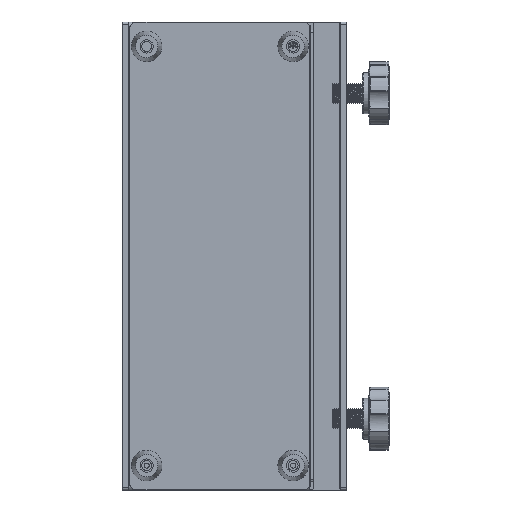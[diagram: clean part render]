
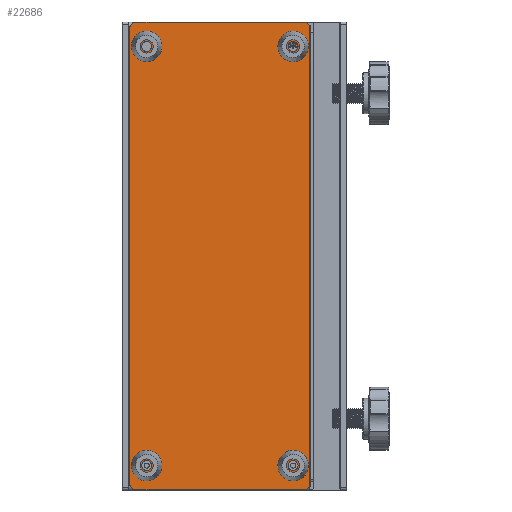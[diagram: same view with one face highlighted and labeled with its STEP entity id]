
A CAD part, front view. The second image highlights one B-rep face of the part: STEP entity #22686.
In plain terms, the highlighted planar face has unit normal (0, -1, 0).
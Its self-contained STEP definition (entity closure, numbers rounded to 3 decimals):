
#1870 = CARTESIAN_POINT ( 'NONE',  ( 83.75, -49.25, -103. ) ) ;
#2075 = DIRECTION ( 'NONE',  ( -1., 0., 0. ) ) ;
#2076 = DIRECTION ( 'NONE',  ( -1., 0., 0. ) ) ;
#3842 = FACE_BOUND ( 'NONE', #25875, .T. ) ;
#4093 = CIRCLE ( 'NONE', #26175, 2.4 ) ;
#5411 = EDGE_CURVE ( 'NONE', #46931, #46931, #15326, .T. ) ;
#5833 = DIRECTION ( 'NONE',  ( 0., -1., 0. ) ) ;
#5959 = VERTEX_POINT ( 'NONE', #36346 ) ;
#7318 = DIRECTION ( 'NONE',  ( 0., -1., 0. ) ) ;
#7723 = FACE_OUTER_BOUND ( 'NONE', #28064, .T. ) ;
#8888 = DIRECTION ( 'NONE',  ( 1., 0., 0. ) ) ;
#10193 = CARTESIAN_POINT ( 'NONE',  ( 89., -49.25, -115. ) ) ;
#10977 = ORIENTED_EDGE ( 'NONE', *, *, #5411, .T. ) ;
#12600 = VERTEX_POINT ( 'NONE', #27683 ) ;
#13413 = AXIS2_PLACEMENT_3D ( 'NONE', #39127, #26100, #23043 ) ;
#14123 = CARTESIAN_POINT ( 'NONE',  ( 11.75, -49.25, 103. ) ) ;
#14220 = VERTEX_POINT ( 'NONE', #22229 ) ;
#15314 = VECTOR ( 'NONE', #2075, 1000. ) ;
#15326 = CIRCLE ( 'NONE', #48886, 2.4 ) ;
#15790 = VERTEX_POINT ( 'NONE', #47991 ) ;
#16821 = CIRCLE ( 'NONE', #30938, 2.4 ) ;
#16922 = CARTESIAN_POINT ( 'NONE',  ( 6.5, -49.25, 112. ) ) ;
#17199 = VERTEX_POINT ( 'NONE', #34042 ) ;
#18568 = CARTESIAN_POINT ( 'NONE',  ( 3.5, -49.25, -112. ) ) ;
#19272 = AXIS2_PLACEMENT_3D ( 'NONE', #1870, #35631, #48889 ) ;
#20884 = VECTOR ( 'NONE', #41479, 1000. ) ;
#22229 = CARTESIAN_POINT ( 'NONE',  ( 81.35, -49.25, -103. ) ) ;
#22240 = CIRCLE ( 'NONE', #29294, 3. ) ;
#22662 = VECTOR ( 'NONE', #42760, 1000. ) ;
#22686 = ADVANCED_FACE ( 'NONE', ( #24883, #3842, #50047, #45634, #7723 ), #37612, .T. ) ;
#22836 = DIRECTION ( 'NONE',  ( 0., 1., 0. ) ) ;
#23043 = DIRECTION ( 'NONE',  ( 1., 0., 0. ) ) ;
#23099 = CARTESIAN_POINT ( 'NONE',  ( 3.5, -49.25, 112. ) ) ;
#23285 = AXIS2_PLACEMENT_3D ( 'NONE', #42550, #41743, #25406 ) ;
#24183 = CIRCLE ( 'NONE', #23285, 3. ) ;
#24510 = VERTEX_POINT ( 'NONE', #23099 ) ;
#24605 = CARTESIAN_POINT ( 'NONE',  ( 47.75, -49.25, 0. ) ) ;
#24625 = EDGE_LOOP ( 'NONE', ( #39671 ) ) ;
#24883 = FACE_BOUND ( 'NONE', #41868, .T. ) ;
#24894 = CARTESIAN_POINT ( 'NONE',  ( 6.5, -49.25, 115. ) ) ;
#25406 = DIRECTION ( 'NONE',  ( 1., 0., 0. ) ) ;
#25729 = ORIENTED_EDGE ( 'NONE', *, *, #53222, .T. ) ;
#25875 = EDGE_LOOP ( 'NONE', ( #10977 ) ) ;
#25880 = EDGE_CURVE ( 'NONE', #47509, #45487, #30159, .T. ) ;
#25987 = CARTESIAN_POINT ( 'NONE',  ( 11.75, -49.25, -103. ) ) ;
#26100 = DIRECTION ( 'NONE',  ( 0., -1., 0. ) ) ;
#26175 = AXIS2_PLACEMENT_3D ( 'NONE', #14123, #52298, #26548 ) ;
#26255 = EDGE_CURVE ( 'NONE', #12600, #15790, #22240, .T. ) ;
#26548 = DIRECTION ( 'NONE',  ( -1., 0., 0. ) ) ;
#27683 = CARTESIAN_POINT ( 'NONE',  ( 92., -49.25, 112. ) ) ;
#27784 = VERTEX_POINT ( 'NONE', #24894 ) ;
#28064 = EDGE_LOOP ( 'NONE', ( #29514, #34699, #48918, #50985, #54060, #45653, #51911, #50098 ) ) ;
#28172 = CIRCLE ( 'NONE', #47666, 3. ) ;
#28653 = EDGE_CURVE ( 'NONE', #27784, #15790, #44540, .T. ) ;
#29284 = DIRECTION ( 'NONE',  ( 1., 0., 0. ) ) ;
#29294 = AXIS2_PLACEMENT_3D ( 'NONE', #31271, #5833, #30447 ) ;
#29514 = ORIENTED_EDGE ( 'NONE', *, *, #28653, .F. ) ;
#30020 = LINE ( 'NONE', #35270, #22662 ) ;
#30102 = VECTOR ( 'NONE', #52918, 1000. ) ;
#30159 = CIRCLE ( 'NONE', #13413, 3. ) ;
#30447 = DIRECTION ( 'NONE',  ( 1., 0., 0. ) ) ;
#30938 = AXIS2_PLACEMENT_3D ( 'NONE', #44132, #22836, #2076 ) ;
#31271 = CARTESIAN_POINT ( 'NONE',  ( 89., -49.25, 112. ) ) ;
#31504 = EDGE_CURVE ( 'NONE', #14220, #14220, #39585, .T. ) ;
#31652 = LINE ( 'NONE', #40001, #15314 ) ;
#33551 = AXIS2_PLACEMENT_3D ( 'NONE', #24605, #37881, #29284 ) ;
#34042 = CARTESIAN_POINT ( 'NONE',  ( 9.35, -49.25, 103. ) ) ;
#34291 = EDGE_LOOP ( 'NONE', ( #25729 ) ) ;
#34699 = ORIENTED_EDGE ( 'NONE', *, *, #35521, .T. ) ;
#35270 = CARTESIAN_POINT ( 'NONE',  ( 92., -49.25, -115. ) ) ;
#35521 = EDGE_CURVE ( 'NONE', #27784, #24510, #28172, .T. ) ;
#35631 = DIRECTION ( 'NONE',  ( 0., 1., 0. ) ) ;
#35769 = CARTESIAN_POINT ( 'NONE',  ( 3.5, -49.25, -115. ) ) ;
#36235 = CARTESIAN_POINT ( 'NONE',  ( 3.5, -49.25, 115. ) ) ;
#36346 = CARTESIAN_POINT ( 'NONE',  ( 6.5, -49.25, -115. ) ) ;
#36584 = LINE ( 'NONE', #35769, #30102 ) ;
#37227 = ORIENTED_EDGE ( 'NONE', *, *, #31504, .T. ) ;
#37612 = PLANE ( 'NONE',  #33551 ) ;
#37881 = DIRECTION ( 'NONE',  ( 0., -1., 0. ) ) ;
#39127 = CARTESIAN_POINT ( 'NONE',  ( 89., -49.25, -112. ) ) ;
#39585 = CIRCLE ( 'NONE', #19272, 2.4 ) ;
#39671 = ORIENTED_EDGE ( 'NONE', *, *, #42202, .T. ) ;
#39753 = CARTESIAN_POINT ( 'NONE',  ( 92., -49.25, -112. ) ) ;
#40001 = CARTESIAN_POINT ( 'NONE',  ( 3.5, -49.25, -115. ) ) ;
#40480 = VERTEX_POINT ( 'NONE', #44892 ) ;
#41479 = DIRECTION ( 'NONE',  ( 1., 0., 0. ) ) ;
#41743 = DIRECTION ( 'NONE',  ( 0., -1., 0. ) ) ;
#41868 = EDGE_LOOP ( 'NONE', ( #37227 ) ) ;
#42202 = EDGE_CURVE ( 'NONE', #40480, #40480, #16821, .T. ) ;
#42233 = CARTESIAN_POINT ( 'NONE',  ( 9.35, -49.25, -103. ) ) ;
#42550 = CARTESIAN_POINT ( 'NONE',  ( 6.5, -49.25, -112. ) ) ;
#42712 = EDGE_CURVE ( 'NONE', #44225, #24510, #36584, .T. ) ;
#42760 = DIRECTION ( 'NONE',  ( 0., 0., -1. ) ) ;
#44132 = CARTESIAN_POINT ( 'NONE',  ( 83.75, -49.25, 103. ) ) ;
#44225 = VERTEX_POINT ( 'NONE', #18568 ) ;
#44540 = LINE ( 'NONE', #36235, #20884 ) ;
#44892 = CARTESIAN_POINT ( 'NONE',  ( 81.35, -49.25, 103. ) ) ;
#45487 = VERTEX_POINT ( 'NONE', #39753 ) ;
#45634 = FACE_BOUND ( 'NONE', #24625, .T. ) ;
#45653 = ORIENTED_EDGE ( 'NONE', *, *, #25880, .T. ) ;
#46740 = DIRECTION ( 'NONE',  ( -1., 0., 0. ) ) ;
#46931 = VERTEX_POINT ( 'NONE', #42233 ) ;
#47022 = DIRECTION ( 'NONE',  ( 0., 1., 0. ) ) ;
#47509 = VERTEX_POINT ( 'NONE', #10193 ) ;
#47666 = AXIS2_PLACEMENT_3D ( 'NONE', #16922, #7318, #8888 ) ;
#47991 = CARTESIAN_POINT ( 'NONE',  ( 89., -49.25, 115. ) ) ;
#48161 = EDGE_CURVE ( 'NONE', #47509, #5959, #31652, .T. ) ;
#48886 = AXIS2_PLACEMENT_3D ( 'NONE', #25987, #47022, #46740 ) ;
#48889 = DIRECTION ( 'NONE',  ( -1., 0., 0. ) ) ;
#48918 = ORIENTED_EDGE ( 'NONE', *, *, #42712, .F. ) ;
#49831 = EDGE_CURVE ( 'NONE', #44225, #5959, #24183, .T. ) ;
#50047 = FACE_BOUND ( 'NONE', #34291, .T. ) ;
#50098 = ORIENTED_EDGE ( 'NONE', *, *, #26255, .T. ) ;
#50985 = ORIENTED_EDGE ( 'NONE', *, *, #49831, .T. ) ;
#51911 = ORIENTED_EDGE ( 'NONE', *, *, #53941, .F. ) ;
#52298 = DIRECTION ( 'NONE',  ( 0., 1., 0. ) ) ;
#52918 = DIRECTION ( 'NONE',  ( 0., 0., 1. ) ) ;
#53222 = EDGE_CURVE ( 'NONE', #17199, #17199, #4093, .T. ) ;
#53941 = EDGE_CURVE ( 'NONE', #12600, #45487, #30020, .T. ) ;
#54060 = ORIENTED_EDGE ( 'NONE', *, *, #48161, .F. ) ;
